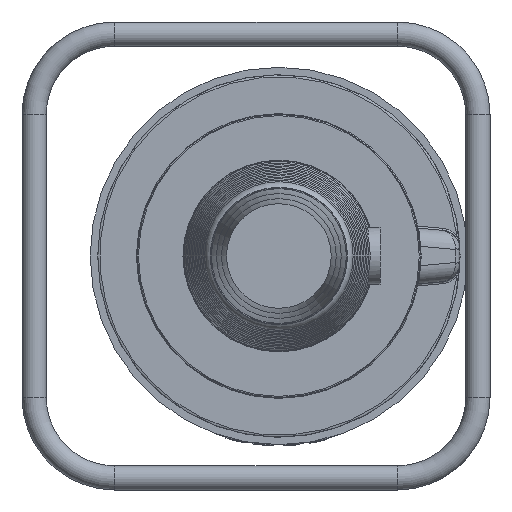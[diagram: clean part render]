
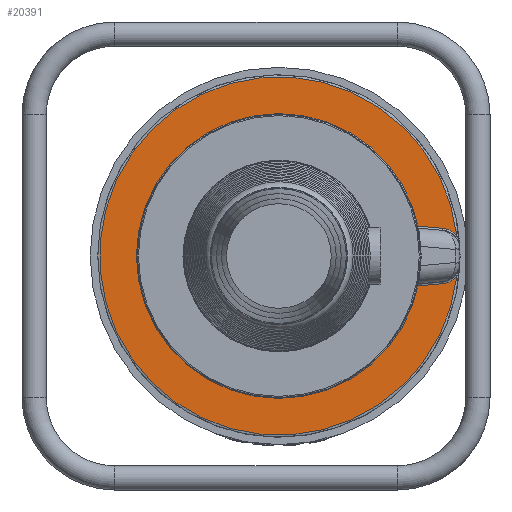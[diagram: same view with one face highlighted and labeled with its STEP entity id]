
A CAD part, left-side view. The second image highlights one B-rep face of the part: STEP entity #20391.
In plain terms, the highlighted planar face has unit normal (-1, 0, 0).
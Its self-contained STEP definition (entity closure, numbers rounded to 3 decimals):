
#992=PLANE('',#21657);
#2919=LINE('',#45016,#4075);
#2921=LINE('',#45040,#4077);
#4075=VECTOR('',#25234,10.);
#4077=VECTOR('',#25264,10.);
#5179=FACE_OUTER_BOUND('',#6381,.T.);
#6381=EDGE_LOOP('',(#17109,#17110,#17111,#17112,#17113,#17114,#17115,#17116));
#7016=CIRCLE('',#21584,21.);
#7020=CIRCLE('',#21590,8.);
#7023=CIRCLE('',#21594,113.);
#7026=CIRCLE('',#21598,8.);
#7030=CIRCLE('',#21604,21.);
#7036=CIRCLE('',#21622,178.);
#9025=VERTEX_POINT('',#44983);
#9028=VERTEX_POINT('',#45008);
#9030=VERTEX_POINT('',#45014);
#9032=VERTEX_POINT('',#45020);
#9034=VERTEX_POINT('',#45026);
#9036=VERTEX_POINT('',#45032);
#9038=VERTEX_POINT('',#45038);
#9040=VERTEX_POINT('',#45044);
#11689=EDGE_CURVE('',#9028,#9025,#7016,.T.);
#11692=EDGE_CURVE('',#9030,#9028,#2919,.T.);
#11695=EDGE_CURVE('',#9032,#9030,#7020,.T.);
#11698=EDGE_CURVE('',#9034,#9032,#7023,.T.);
#11701=EDGE_CURVE('',#9036,#9034,#7026,.T.);
#11704=EDGE_CURVE('',#9038,#9036,#2921,.T.);
#11707=EDGE_CURVE('',#9040,#9038,#7030,.T.);
#11731=EDGE_CURVE('',#9025,#9040,#7036,.T.);
#17109=ORIENTED_EDGE('',*,*,#11707,.F.);
#17110=ORIENTED_EDGE('',*,*,#11731,.F.);
#17111=ORIENTED_EDGE('',*,*,#11689,.F.);
#17112=ORIENTED_EDGE('',*,*,#11692,.F.);
#17113=ORIENTED_EDGE('',*,*,#11695,.F.);
#17114=ORIENTED_EDGE('',*,*,#11698,.F.);
#17115=ORIENTED_EDGE('',*,*,#11701,.F.);
#17116=ORIENTED_EDGE('',*,*,#11704,.F.);
#20391=ADVANCED_FACE('',(#5179),#992,.T.);
#21584=AXIS2_PLACEMENT_3D('',#45010,#25226,#25227);
#21590=AXIS2_PLACEMENT_3D('',#45022,#25240,#25241);
#21594=AXIS2_PLACEMENT_3D('',#45028,#25248,#25249);
#21598=AXIS2_PLACEMENT_3D('',#45034,#25256,#25257);
#21604=AXIS2_PLACEMENT_3D('',#45046,#25270,#25271);
#21622=AXIS2_PLACEMENT_3D('',#45181,#25316,#25317);
#21657=AXIS2_PLACEMENT_3D('',#45807,#25390,#25391);
#25226=DIRECTION('center_axis',(-1.,0.,0.));
#25227=DIRECTION('ref_axis',(0.,-0.535,-0.845));
#25234=DIRECTION('',(0.,-0.996,0.087));
#25240=DIRECTION('center_axis',(1.,0.,0.));
#25241=DIRECTION('ref_axis',(0.,0.614,0.789));
#25248=DIRECTION('center_axis',(-1.,0.,0.));
#25249=DIRECTION('ref_axis',(0.,1.,0.));
#25256=DIRECTION('center_axis',(1.,0.,0.));
#25257=DIRECTION('ref_axis',(0.,0.614,-0.789));
#25264=DIRECTION('',(0.,0.996,0.087));
#25270=DIRECTION('center_axis',(-1.,0.,0.));
#25271=DIRECTION('ref_axis',(0.,-0.535,0.845));
#25316=DIRECTION('center_axis',(1.,0.,0.));
#25317=DIRECTION('ref_axis',(0.,1.,0.));
#25390=DIRECTION('center_axis',(-1.,0.,0.));
#25391=DIRECTION('ref_axis',(0.,0.,
-1.));
#44983=CARTESIAN_POINT('',(-155.,-176.847,-20.223));
#45008=CARTESIAN_POINT('',(-155.,-162.695,-27.522));
#45010=CARTESIAN_POINT('Origin',(-155.,-160.865,-6.602));
#45014=CARTESIAN_POINT('',(-155.,-113.574,-31.819));
#45016=CARTESIAN_POINT('',(-155.,20.898,-43.584));
#45020=CARTESIAN_POINT('',(-155.,-106.716,-37.158));
#45022=CARTESIAN_POINT('Origin',(-155.,-114.271,-39.789));
#45026=CARTESIAN_POINT('',(-155.,-106.716,37.158));
#45028=CARTESIAN_POINT('Origin',(-155.,0.,
0.));
#45032=CARTESIAN_POINT('',(-155.,-113.574,31.819));
#45034=CARTESIAN_POINT('Origin',(-155.,-114.271,39.789));
#45038=CARTESIAN_POINT('',(-155.,-162.695,27.522));
#45040=CARTESIAN_POINT('',(-155.,20.898,43.584));
#45044=CARTESIAN_POINT('',(-155.,-176.847,20.223));
#45046=CARTESIAN_POINT('Origin',(-155.,-160.865,6.602));
#45181=CARTESIAN_POINT('Origin',(-155.,0.,
0.));
#45807=CARTESIAN_POINT('Origin',(-155.,179.,0.));
